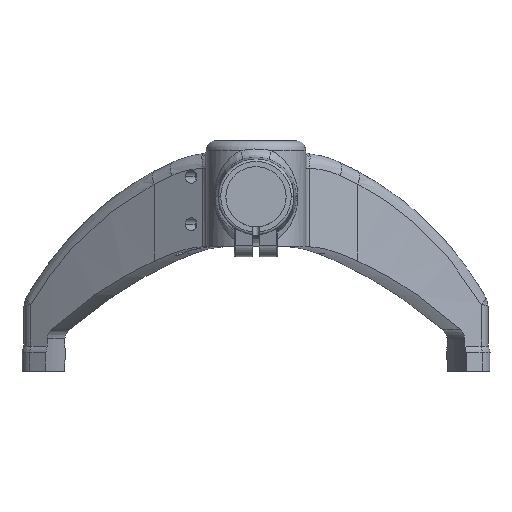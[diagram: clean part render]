
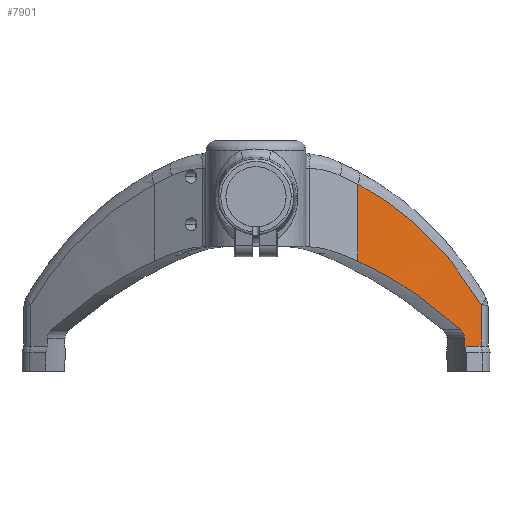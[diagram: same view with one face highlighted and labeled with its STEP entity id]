
A CAD part, front view. The second image highlights one B-rep face of the part: STEP entity #7901.
In plain terms, the highlighted cylindrical face has radius 1500 mm (diameter 3000 mm), a partial arc.
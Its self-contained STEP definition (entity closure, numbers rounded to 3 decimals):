
#60 = CARTESIAN_POINT ( 'NONE',  ( 81.728, 26.978, 150.141 ) ) ;
#83 = CYLINDRICAL_SURFACE ( 'NONE', #6576, 1500. ) ;
#100 = CARTESIAN_POINT ( 'NONE',  ( 128.608, 55.187, 117.649 ) ) ;
#156 = EDGE_CURVE ( 'NONE', #531, #3219, #7593, .T. ) ;
#194 = B_SPLINE_CURVE_WITH_KNOTS ( 'NONE', 3,
 ( #4717, #2671, #681, #2766 ),
 .UNSPECIFIED., .F., .F.,
 ( 4, 4 ),
 ( 0., 0.006 ),
 .UNSPECIFIED. ) ;
#531 = VERTEX_POINT ( 'NONE', #3591 ) ;
#555 = EDGE_LOOP ( 'NONE', ( #7456, #8328, #7703, #4321, #4707, #2062, #1289, #8950 ) ) ;
#598 = CARTESIAN_POINT ( 'NONE',  ( 151.567, 69.862, 44.595 ) ) ;
#677 = CARTESIAN_POINT ( 'NONE',  ( 177.494, 87.189, 58.722 ) ) ;
#681 = CARTESIAN_POINT ( 'NONE',  ( 167.531, 80.451, 22.205 ) ) ;
#720 = CARTESIAN_POINT ( 'NONE',  ( 106.138, 41.37, 135.377 ) ) ;
#810 = CARTESIAN_POINT ( 'NONE',  ( 139.119, 61.846, 107.65 ) ) ;
#915 = VECTOR ( 'NONE', #5522, 1000. ) ;
#925 = CARTESIAN_POINT ( 'NONE',  ( -668.272, 1326.016, 185. ) ) ;
#989 = CARTESIAN_POINT ( 'NONE',  ( 81.728, 26.978, 150.141 ) ) ;
#1034 = VERTEX_POINT ( 'NONE', #4686 ) ;
#1186 = VERTEX_POINT ( 'NONE', #1794 ) ;
#1288 = CARTESIAN_POINT ( 'NONE',  ( 164.119, 78.169, 33.46 ) ) ;
#1289 = ORIENTED_EDGE ( 'NONE', *, *, #8604, .T. ) ;
#1339 = CARTESIAN_POINT ( 'NONE',  ( 96.668, 35.692, 81.224 ) ) ;
#1545 = AXIS2_PLACEMENT_3D ( 'NONE', #4410, #6612, #8709 ) ;
#1659 = EDGE_CURVE ( 'NONE', #3742, #1034, #5117, .T. ) ;
#1688 = VERTEX_POINT ( 'NONE', #7726 ) ;
#1691 = CIRCLE ( 'NONE', #1545, 1500. ) ;
#1791 = CARTESIAN_POINT ( 'NONE',  ( 180.556, 89.29, 53.466 ) ) ;
#1794 = CARTESIAN_POINT ( 'NONE',  ( 167.616, 80.508, 20.268 ) ) ;
#1841 = CARTESIAN_POINT ( 'NONE',  ( 180.556, 89.29, 53.466 ) ) ;
#1861 = CARTESIAN_POINT ( 'NONE',  ( 167.361, 80.337, 26.08 ) ) ;
#1905 = CARTESIAN_POINT ( 'NONE',  ( 167.233, 80.251, 27.508 ) ) ;
#1994 = CARTESIAN_POINT ( 'NONE',  ( 167.329, 80.316, 26.803 ) ) ;
#2043 = CARTESIAN_POINT ( 'NONE',  ( 118.105, 48.646, 68.893 ) ) ;
#2062 = ORIENTED_EDGE ( 'NONE', *, *, #6777, .F. ) ;
#2163 = CARTESIAN_POINT ( 'NONE',  ( 101.419, 38.536, 138.576 ) ) ;
#2634 = CARTESIAN_POINT ( 'NONE',  ( 166.554, 79.796, 29.878 ) ) ;
#2671 = CARTESIAN_POINT ( 'NONE',  ( 167.446, 80.394, 24.143 ) ) ;
#2733 = EDGE_CURVE ( 'NONE', #1186, #7702, #1691, .T. ) ;
#2766 = CARTESIAN_POINT ( 'NONE',  ( 167.616, 80.508, 20.268 ) ) ;
#2810 = CARTESIAN_POINT ( 'NONE',  ( 119.844, 49.733, 125.088 ) ) ;
#3196 = LINE ( 'NONE', #3238, #915 ) ;
#3219 = VERTEX_POINT ( 'NONE', #8679 ) ;
#3238 = CARTESIAN_POINT ( 'NONE',  ( 180.556, 89.29, 185. ) ) ;
#3332 = CARTESIAN_POINT ( 'NONE',  ( 166.996, 80.092, 28.54 ) ) ;
#3425 = CARTESIAN_POINT ( 'NONE',  ( 138.517, 61.441, 54.877 ) ) ;
#3500 = CARTESIAN_POINT ( 'NONE',  ( 141.171, 63.159, 105.57 ) ) ;
#3549 = CARTESIAN_POINT ( 'NONE',  ( 156.862, 73.35, 87.987 ) ) ;
#3591 = CARTESIAN_POINT ( 'NONE',  ( 180.556, 89.29, 53.466 ) ) ;
#3742 = VERTEX_POINT ( 'NONE', #6998 ) ;
#3982 = B_SPLINE_CURVE_WITH_KNOTS ( 'NONE', 3,
 ( #5835, #677, #6437, #7185, #8492, #3549, #7096, #8677, #5786, #7885, #4337, #3500, #810, #6482, #100, #2810, #5649, #720, #2163, #4986, #7843, #989 ),
 .UNSPECIFIED., .F., .F.,
 ( 4, 2, 2, 2, 2, 2, 2, 2, 2, 2, 4 ),
 ( 0., 0.125, 0.25, 0.375, 0.406, 0.438, 0.5, 0.625, 0.75, 0.875, 1. ),
 .UNSPECIFIED. ) ;
#3983 = EDGE_CURVE ( 'NONE', #3219, #5300, #3982, .T. ) ;
#4036 = CARTESIAN_POINT ( 'NONE',  ( 166.137, 79.517, 30.827 ) ) ;
#4043 = CARTESIAN_POINT ( 'NONE',  ( 131.826, 57.195, 59.736 ) ) ;
#4179 = B_SPLINE_CURVE_WITH_KNOTS ( 'NONE', 3,
 ( #1861, #1994, #1905, #3332, #6092, #4727, #2634, #4036, #8882, #5385, #7628, #6187, #6919, #1288 ),
 .UNSPECIFIED., .F., .F.,
 ( 4, 2, 2, 2, 2, 2, 4 ),
 ( 0., 0.002, 0.003, 0.004, 0.006, 0.007, 0.009 ),
 .UNSPECIFIED. ) ;
#4265 = CARTESIAN_POINT ( 'NONE',  ( 111.076, 44.343, 73.192 ) ) ;
#4321 = ORIENTED_EDGE ( 'NONE', *, *, #8023, .T. ) ;
#4337 = CARTESIAN_POINT ( 'NONE',  ( 144.207, 65.112, 102.383 ) ) ;
#4410 = CARTESIAN_POINT ( 'NONE',  ( -668.272, 1326.016, 20.268 ) ) ;
#4449 = DIRECTION ( 'NONE',  ( -1., 0., 0. ) ) ;
#4568 = CARTESIAN_POINT ( 'NONE',  ( 180.556, 89.29, 53.466 ) ) ;
#4686 = CARTESIAN_POINT ( 'NONE',  ( 81.728, 26.978, 88.398 ) ) ;
#4707 = ORIENTED_EDGE ( 'NONE', *, *, #1659, .F. ) ;
#4717 = CARTESIAN_POINT ( 'NONE',  ( 167.361, 80.337, 26.08 ) ) ;
#4727 = CARTESIAN_POINT ( 'NONE',  ( 166.68, 79.88, 29.551 ) ) ;
#4822 = CARTESIAN_POINT ( 'NONE',  ( 157.926, 74.037, 39.172 ) ) ;
#4986 = CARTESIAN_POINT ( 'NONE',  ( 91.749, 32.804, 144.623 ) ) ;
#5050 = CARTESIAN_POINT ( 'NONE',  ( 89.29, 31.344, 84.957 ) ) ;
#5117 = B_SPLINE_CURVE_WITH_KNOTS ( 'NONE', 3,
 ( #9078, #4822, #598, #3425, #4043, #2043, #4265, #1339, #5050, #5577 ),
 .UNSPECIFIED., .F., .F.,
 ( 4, 2, 2, 2, 4 ),
 ( 0., 0.028, 0.056, 0.084, 0.111 ),
 .UNSPECIFIED. ) ;
#5300 = VERTEX_POINT ( 'NONE', #60 ) ;
#5385 = CARTESIAN_POINT ( 'NONE',  ( 165.226, 78.907, 32.244 ) ) ;
#5522 = DIRECTION ( 'NONE',  ( 0., 0., -1. ) ) ;
#5577 = CARTESIAN_POINT ( 'NONE',  ( 81.728, 26.978, 88.398 ) ) ;
#5649 = CARTESIAN_POINT ( 'NONE',  ( 115.351, 46.968, 128.633 ) ) ;
#5786 = CARTESIAN_POINT ( 'NONE',  ( 147.207, 67.051, 99.141 ) ) ;
#5835 = CARTESIAN_POINT ( 'NONE',  ( 180.556, 89.29, 53.466 ) ) ;
#6092 = CARTESIAN_POINT ( 'NONE',  ( 166.901, 80.029, 28.88 ) ) ;
#6187 = CARTESIAN_POINT ( 'NONE',  ( 164.586, 78.48, 33.005 ) ) ;
#6243 = CARTESIAN_POINT ( 'NONE',  ( 180.556, 89.29, 20.268 ) ) ;
#6367 = CARTESIAN_POINT ( 'NONE',  ( 81.728, 26.978, 185. ) ) ;
#6416 = VECTOR ( 'NONE', #8374, 1000. ) ;
#6437 = CARTESIAN_POINT ( 'NONE',  ( 174.291, 85.007, 63.834 ) ) ;
#6482 = CARTESIAN_POINT ( 'NONE',  ( 132.879, 57.876, 113.756 ) ) ;
#6508 = DIRECTION ( 'NONE',  ( 0., 0., -1. ) ) ;
#6576 = AXIS2_PLACEMENT_3D ( 'NONE', #925, #6508, #4449 ) ;
#6612 = DIRECTION ( 'NONE',  ( 0., 0., 1. ) ) ;
#6777 = EDGE_CURVE ( 'NONE', #1688, #3742, #4179, .T. ) ;
#6786 = EDGE_CURVE ( 'NONE', #531, #7702, #3196, .T. ) ;
#6919 = CARTESIAN_POINT ( 'NONE',  ( 164.358, 78.328, 33.24 ) ) ;
#6922 = LINE ( 'NONE', #6367, #6416 ) ;
#6998 = CARTESIAN_POINT ( 'NONE',  ( 164.119, 78.169, 33.46 ) ) ;
#7096 = CARTESIAN_POINT ( 'NONE',  ( 153.092, 70.874, 92.537 ) ) ;
#7185 = CARTESIAN_POINT ( 'NONE',  ( 167.603, 80.493, 73.777 ) ) ;
#7428 = CARTESIAN_POINT ( 'NONE',  ( 180.556, 89.29, 53.466 ) ) ;
#7456 = ORIENTED_EDGE ( 'NONE', *, *, #6786, .F. ) ;
#7593 = B_SPLINE_CURVE_WITH_KNOTS ( 'NONE', 3,
 ( #4568, #1791, #7428, #1841 ),
 .UNSPECIFIED., .F., .F.,
 ( 4, 4 ),
 ( 0., 1. ),
 .UNSPECIFIED. ) ;
#7628 = CARTESIAN_POINT ( 'NONE',  ( 165.019, 78.769, 32.508 ) ) ;
#7702 = VERTEX_POINT ( 'NONE', #6243 ) ;
#7703 = ORIENTED_EDGE ( 'NONE', *, *, #3983, .T. ) ;
#7726 = CARTESIAN_POINT ( 'NONE',  ( 167.361, 80.337, 26.08 ) ) ;
#7843 = CARTESIAN_POINT ( 'NONE',  ( 86.799, 29.906, 147.471 ) ) ;
#7885 = CARTESIAN_POINT ( 'NONE',  ( 145.212, 65.761, 101.309 ) ) ;
#7901 = ADVANCED_FACE ( 'NONE', ( #8566 ), #83, .T. ) ;
#8023 = EDGE_CURVE ( 'NONE', #5300, #1034, #6922, .T. ) ;
#8328 = ORIENTED_EDGE ( 'NONE', *, *, #156, .T. ) ;
#8374 = DIRECTION ( 'NONE',  ( 0., 0., -1. ) ) ;
#8492 = CARTESIAN_POINT ( 'NONE',  ( 164.118, 78.16, 78.607 ) ) ;
#8566 = FACE_OUTER_BOUND ( 'NONE', #555, .T. ) ;
#8604 = EDGE_CURVE ( 'NONE', #1688, #1186, #194, .T. ) ;
#8677 = CARTESIAN_POINT ( 'NONE',  ( 148.196, 67.691, 98.048 ) ) ;
#8679 = CARTESIAN_POINT ( 'NONE',  ( 180.556, 89.29, 53.466 ) ) ;
#8709 = DIRECTION ( 'NONE',  ( -1., 0., 0. ) ) ;
#8882 = CARTESIAN_POINT ( 'NONE',  ( 165.806, 79.295, 31.418 ) ) ;
#8950 = ORIENTED_EDGE ( 'NONE', *, *, #2733, .T. ) ;
#9078 = CARTESIAN_POINT ( 'NONE',  ( 164.119, 78.169, 33.46 ) ) ;
